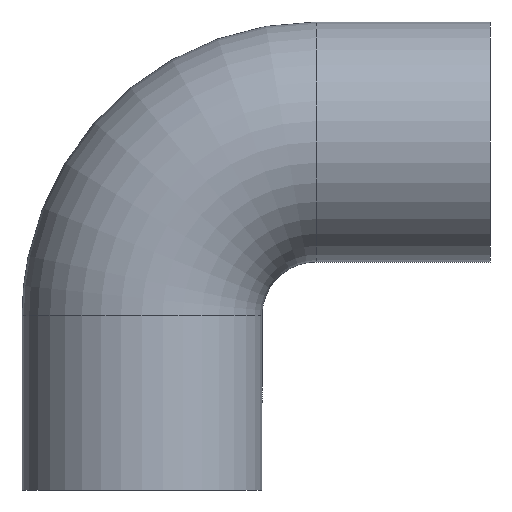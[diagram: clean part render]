
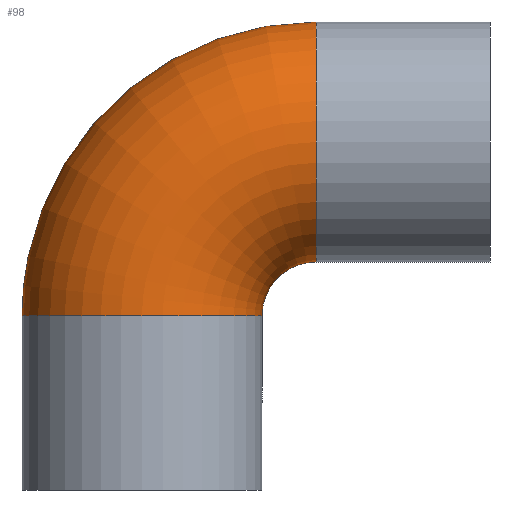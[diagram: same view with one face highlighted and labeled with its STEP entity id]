
A CAD part, left-side view. The second image highlights one B-rep face of the part: STEP entity #98.
In plain terms, the highlighted toroidal (fillet/blend) face has major radius 29 mm and minor radius 20 mm.
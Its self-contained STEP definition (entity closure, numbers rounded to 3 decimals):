
#17=TOROIDAL_SURFACE('',#115,29.,20.);
#22=FACE_BOUND('',#43,.T.);
#32=FACE_OUTER_BOUND('',#42,.T.);
#42=EDGE_LOOP('',(#82));
#43=EDGE_LOOP('',(#83));
#55=CIRCLE('',#114,20.);
#56=CIRCLE('',#116,20.);
#63=VERTEX_POINT('',#170);
#64=VERTEX_POINT('',#173);
#71=EDGE_CURVE('',#63,#63,#55,.T.);
#72=EDGE_CURVE('',#64,#64,#56,.T.);
#82=ORIENTED_EDGE('',*,*,#71,.F.);
#83=ORIENTED_EDGE('',*,*,#72,.T.);
#98=ADVANCED_FACE('',(#32,#22),#17,.T.);
#114=AXIS2_PLACEMENT_3D('',#171,#141,#142);
#115=AXIS2_PLACEMENT_3D('',#172,#143,#144);
#116=AXIS2_PLACEMENT_3D('',#174,#145,#146);
#141=DIRECTION('center_axis',(0.,0.,-1.));
#142=DIRECTION('ref_axis',(-1.,0.,0.));
#143=DIRECTION('center_axis',(-1.,0.,0.));
#144=DIRECTION('ref_axis',(0.,0.,1.));
#145=DIRECTION('center_axis',(0.,1.,0.));
#146=DIRECTION('ref_axis',(-1.,0.,0.));
#170=CARTESIAN_POINT('',(20.,0.,0.));
#171=CARTESIAN_POINT('Origin',(0.,0.,0.));
#172=CARTESIAN_POINT('Origin',(0.,-29.,0.));
#173=CARTESIAN_POINT('',(20.,-29.,29.));
#174=CARTESIAN_POINT('Origin',(0.,-29.,29.));
